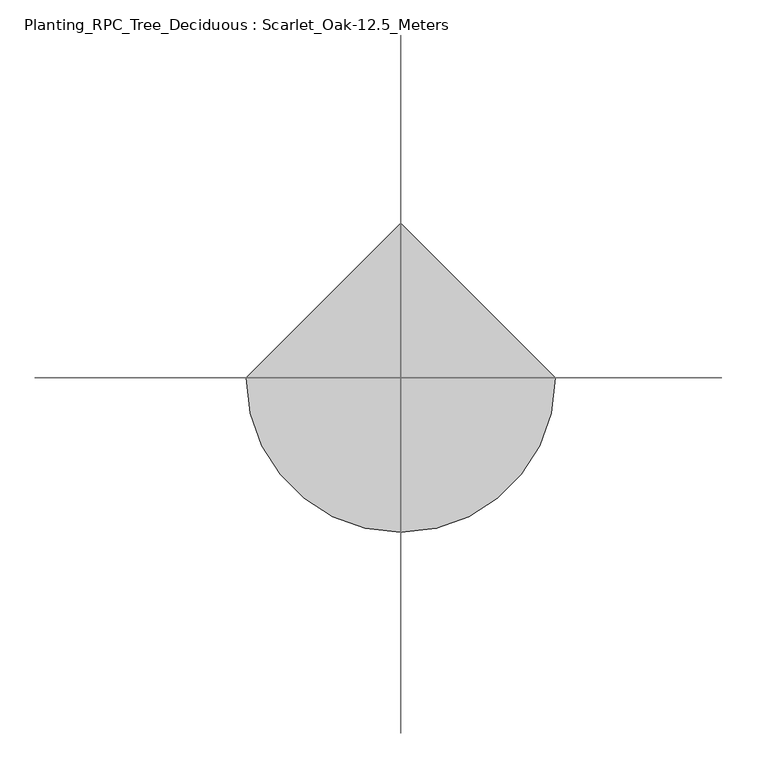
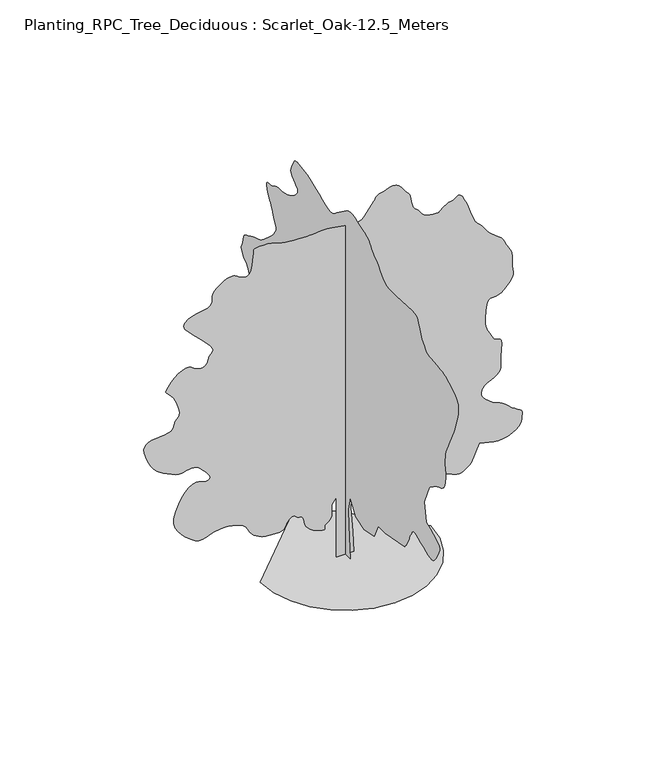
"""IFC4 building model written with IfcOpenShell, lengths in millimetres: geographic element geometry, Planting_RPC_Tree_Deciduous : Scarlet_Oak-12.5_Meters."""

from ifc_helpers import new_model, si_unit, origin, place, context, project, spatial, triangles, source, transform, mapped, element, save


def planting_rpc_tree_deciduous_scarlet_oak_12_5_meters_78a4568a(model_context):
    return source(origin(), model_context, "Body", "Tessellation", [
        triangles([(0.0172504, 306.0074844, 0.0), (0.0172504, -293.5650026, 0.0), (0.0172504, -196.8600042, 1141.1200275), (0.0172504, -177.5185068, 1682.6674953), (0.0172504, -293.5650026, 2185.5350567), (0.0172504, -603.0224945, 1682.6674953), (0.0172504, -1105.8875124, 1527.9400211), (0.0172504, -1686.1174301, 1663.3275421), (0.0172504, -1918.2099495, 2146.8525341), (0.0172504, -2324.3725124, 2146.8525341), (0.0172504, -3446.150116, 2359.6049549), (0.0172504, -3487.4249222, 2409.394939), (0.0172504, -3527.7000801, 2459.5225479), (0.0172504, -3565.9250725, 2510.3249702), (0.0172504, -3601.0999603, 2562.1500046), (0.0172504, -3632.2250954, 2615.3249565), (0.0172504, -3658.2749588, 2670.2000954), (0.0172504, -3678.2499023, 2727.0751122), (0.0172504, -3697.649881, 2785.6750237), (0.0172504, -3722.1251312, 2845.2748741), (0.0172504, -3750.8251236, 2905.7249634), (0.0172504, -3782.89991, 2966.8500114), (0.0172504, -3817.5251221, 3028.475029), (0.0172504, -3853.8249413, 3090.4500252), (0.0172504, -3890.9999977, 3152.5750122), (0.0172504, -3908.7000801, 3172.6499496), (0.0172504, -3933.1750397, 3188.8501236), (0.0172504, -3971.1750458, 3197.2499016), (0.0172504, -4029.4749756, 3193.9751015), (0.0172504, -4114.8499969, 3175.1500877), (0.0172504, -4234.0499886, 3136.8500999), (0.0172504, -4393.8501183, 3075.2250824), (0.0172504, -4562.5749939, 3002.6998581), (0.0172504, -4706.2499451, 2937.9750298), (0.0172504, -4828.2750549, 2886.4249786), (0.0172504, -4932.0251175, 2853.4999535), (0.0172504, -5020.8999252, 2844.5999153), (0.0172504, -5098.249855, 2865.125116), (0.0172504, -5167.5002792, 2920.4999336), (0.0172504, -5237.3750839, 3007.7251328), (0.0172504, -5309.5997452, 3113.9000473), (0.0172504, -5377.1002762, 3229.5499649), (0.0172504, -5432.7497864, 3345.1998825), (0.0172504, -5469.4498718, 3451.3750877), (0.0172504, -5480.1248016, 3538.6249947), (0.0172504, -5457.6250122, 3597.424894), (0.0172504, -5402.6498795, 3641.7000984), (0.0172504, -5323.3000717, 3691.0249947), (0.0172504, -5223.6747574, 3744.5999222), (0.0172504, -5107.774855, 3801.5499344), (0.0172504, -4979.7251129, 3861.0500816), (0.0172504, -4843.5499947, 3922.2251266), (0.0172504, -4703.3251236, 3984.2501198), (0.0172504, -4587.2749397, 4641.8500969), (0.0172504, -4877.3749649, 5318.7747665), (0.0172504, -4886.5249878, 5331.7001404), (0.0172504, -4900.7252838, 5347.4747589), (0.0172504, -4925.0999588, 5369.0251877), (0.0172504, -4964.6748688, 5399.20009), (0.0172504, -5024.5502838, 5440.8498734), (0.0172504, -5109.8247299, 5496.8999405), (0.0172504, -5225.5252258, 5570.225116), (0.0172504, -5351.0501221, 5636.6501312), (0.0172504, -5462.3497238, 5680.0498077), (0.0172504, -5559.4501923, 5715.3499786), (0.0172504, -5642.3497833, 5757.424736), (0.0172504, -5711.0252426, 5821.1499161), (0.0172504, -5765.4998245, 5921.4001923), (0.0172504, -5805.7502747, 6073.0752365), (0.0172504, -5829.0500153, 6222.0498642), (0.0172504, -5835.7501877, 6317.5748474), (0.0172504, -5830.6249191, 6379.6001312), (0.0172504, -5818.3750854, 6428.1000778), (0.0172504, -5803.7748138, 6483.0252136), (0.0172504, -5791.5499786, 6564.3249023), (0.0172504, -5786.4247101, 6692.0002487), (0.0172504, -5788.2251816, 6832.849791), (0.0172504, -5796.1252808, 6949.6752182), (0.0172504, -5813.8247818, 7056.3751007), (0.0172504, -5845.0502014, 7166.7747574), (0.0172504, -5893.550148, 7294.7750839), (0.0172504, -5963.0249771, 7454.2502335), (0.0172504, -6057.1750443, 7659.049942), (0.0172504, -6146.5748199, 7844.1752701), (0.0172504, -6206.1752518, 7955.8748474), (0.0172504, -6246.4751175, 8024.9502823), (0.0172504, -6277.9999374, 8082.1752777), (0.0172504, -6311.225235, 8158.3502792), (0.0172504, -6356.599791, 8284.2751511), (0.0172504, -6424.6752869, 8490.6997604), (0.0172504, -6498.0248795, 8729.4997192), (0.0172504, -6547.3747742, 8935.1499573), (0.0172504, -6565.2498459, 9112.3751862), (0.0172504, -6544.199968, 9265.925116), (0.0172504, -6476.8250107, 9400.5250397), (0.0172504, -6355.6498489, 9520.9002502), (0.0172504, -6173.2249374, 9631.8248749), (0.0172504, -5996.2252762, 9723.0001236), (0.0172504, -5879.7998245, 9785.7747803), (0.0172504, -5799.2250916, 9827.2001587), (0.0172504, -5729.8002594, 9854.4496582), (0.0172504, -5646.85009, 9874.575174), (0.0172504, -5525.6749283, 9894.699527), (0.0172504, -5341.575119, 9921.9501892), (0.0172504, -5144.0999634, 9943.4244598), (0.0172504, -4990.9500092, 9951.725116), (0.0172504, -4869.5998581, 9962.0244873), (0.0172504, -4767.5499825, 9989.5995483), (0.0172504, -4672.2499855, 10049.6505341), (0.0172504, -4571.2000488, 10157.425351), (0.0172504, -4451.8750648, 10328.0998169), (0.0172504, -4347.6750298, 10515.7499908), (0.0172504, -4286.1000092, 10666.5500885), (0.0172504, -4245.8501404, 10783.8254883), (0.0172504, -4205.5749825, 10871.0003998), (0.0172504, -4143.9999619, 10931.4501984), (0.0172504, -4039.7999268, 10968.5502594), (0.0172504, -3871.650016, 10985.7003754), (0.0172504, -2943.2749969, 10927.6748474), (0.0172504, -2772.1499771, 10930.6746643), (0.0172504, -2632.8250511, 10930.2746887), (0.0172504, -2514.4500092, 10937.3254211), (0.0172504, -2406.244986, 10962.6250397), (0.0172504, -2297.3600624, 11017.0496246), (0.0172504, -2176.9724979, 11111.3752625), (0.0172504, -2034.2550465, 11256.4745453), (0.0172504, -1896.7275398, 11403.0249023), (0.0172504, -1793.7050491, 11502.8746216), (0.0172504, -1717.0749882, 11568.5752625), (0.0172504, -1658.7125622, 11612.6248993), (0.0172504, -1610.5025688, 11647.5250946), (0.0172504, -1564.320068, 11685.7995026), (0.0172504, -1512.0500027, 11739.9996826), (0.0172504, -1461.8649845, 11804.0004272), (0.0172504, -1420.8125484, 11863.6002777), (0.0172504, -1379.087479, 11919.1503754), (0.0172504, -1326.8724976, 11970.9495392), (0.0172504, -1254.3574471, 12019.4000702), (0.0172504, -1151.7299904, 12064.7996246), (0.0172504, -1009.182514, 12107.4749268), (0.0172504, -849.1549999, 12154.4999634), (0.0172504, -699.9524792, 12206.6002716), (0.0172504, -560.5600064, 12254.6496643), (0.0172504, -429.9675053, 12289.4998627), (0.0172504, -307.1550161, 12302.0246796), (0.0172504, -191.1079934, 12283.0746735), (0.0172504, -80.8134993, 12223.5248199), (0.0172504, 499.4175176, 11798.0252106), (0.0172504, 562.2325061, 11740.8496307), (0.0172504, 623.0199657, 11688.7504852), (0.0172504, 689.217524, 11646.7751404), (0.0172504, 768.2749804, 11620.0500275), (0.0172504, 867.630035, 11613.6248383), (0.0172504, 994.7275097, 11632.5748444), (0.0172504, 1157.0125168, 11681.9753174), (0.0172504, 1341.1749676, 11755.3254913), (0.0172504, 1526.6899521, 11837.8251068), (0.0172504, 1710.1749733, 11922.0246185), (0.0172504, 1888.2475342, 12000.4500641), (0.0172504, 2057.5249924, 12065.6995697), (0.0172504, 2214.6200546, 12110.3003357), (0.0172504, 2356.1550201, 12126.8249084), (0.0172504, 2484.8875694, 12135.849939), (0.0172504, 2604.4750374, 12156.3754303), (0.0172504, 2712.9251038, 12178.575238), (0.0172504, 2808.1501053, 12192.6755402), (0.0172504, 2888.1748718, 12188.8501923), (0.0172504, 2950.9251114, 12157.2753754), (0.0172504, 2994.400074, 12088.1249451), (0.0172504, 3033.2500282, 12001.2500153), (0.0172504, 3077.8499222, 11921.1246735), (0.0172504, 3119.7499809, 11845.0502472), (0.0172504, 3150.5001389, 11770.3245758), (0.0172504, 3161.6000427, 11694.2745667), (0.0172504, 3144.6249161, 11614.1503876), (0.0172504, 3091.124984, 11527.2498779), (0.0172504, 3009.2500397, 11447.6245056), (0.0172504, 2921.5998665, 11385.2504059), (0.0172504, 2841.4251091, 11331.3502075), (0.0172504, 2781.8749649, 11277.1000305), (0.0172504, 2756.1750801, 11213.7248291), (0.0172504, 2777.4749428, 11132.4251404), (0.0172504, 2859.0249069, 11024.3747589), (0.0172504, 2971.6250107, 10916.7255157), (0.0172504, 3077.7999252, 10838.2000763), (0.0172504, 3178.2249001, 10782.3), (0.0172504, 3273.574894, 10742.6745117), (0.0172504, 3364.5248657, 10712.8251709), (0.0172504, 3451.7750633, 10686.4000397), (0.0172504, 3535.9498672, 10656.8995148), (0.0172504, 3620.024968, 10634.1753204), (0.0172504, 3706.4749237, 10626.6746155), (0.0172504, 3795.2750267, 10625.9502411), (0.0172504, 3886.4499847, 10623.5248077), (0.0172504, 3980.0000885, 10610.9499939), (0.0172504, 4075.9250473, 10579.7495728), (0.0172504, 4174.1998627, 10521.5252197), (0.0172504, 4275.775058, 10469.80047), (0.0172504, 4375.6250679, 10451.2504395), (0.0172504, 4465.0001358, 10446.8995422), (0.0172504, 4535.0999268, 10437.8245148), (0.0172504, 4577.0999794, 10405.075351), (0.0172504, 4582.2249573, 10329.6753021), (0.0172504, 4541.7001053, 10192.7255219), (0.0172504, 4481.7999825, 10048.5994354), (0.0172504, 4432.0751106, 9951.4995483), (0.0172504, 4388.424868, 9882.1247131), (0.0172504, 4346.8250816, 9821.224942), (0.0172504, 4303.1751297, 9749.5002502), (0.0172504, 4253.4249687, 9647.6750702), (0.0172504, 4193.550135, 9496.4499985), (0.0172504, 4130.2749275, 9347.6997757), (0.0172504, 4075.8250534, 9253.7502777), (0.0172504, 4034.1999779, 9195.999733), (0.0172504, 4009.500032, 9155.8498581), (0.0172504, 4005.7749687, 9114.7000443), (0.0172504, 4027.1001205, 9053.900267), (0.0172504, 4077.4999512, 8954.8999146), (0.0172504, 4167.2249977, 8823.6747849), (0.0172504, 4293.1248711, 8684.3501495), (0.0172504, 4439.3499573, 8545.349913), (0.0172504, 4589.9500671, 8415.1497208), (0.0172504, 4729.0750053, 8302.2002197), (0.0172504, 4840.7748734, 8214.9747299), (0.0172504, 4909.1747681, 8161.9000626), (0.0172504, 4969.9001312, 8128.6997635), (0.0172504, 5061.0747986, 8095.1500671), (0.0172504, 5170.5250946, 8060.9248306), (0.0172504, 5286.0750183, 8025.675238), (0.0172504, 5395.524733, 7989.0751465), (0.0172504, 5486.6999817, 7950.8001572), (0.0172504, 5547.4247635, 7910.4747116), (0.0172504, 5598.275148, 7876.9750122), (0.0172504, 5663.0252655, 7853.2997131), (0.0172504, 5734.1749924, 7830.2999542), (0.0172504, 5804.3247803, 7798.8251312), (0.0172504, 5866.0250839, 7749.7752182), (0.0172504, 5911.8001968, 7673.9751938), (0.0172504, 5934.2499893, 7562.325032), (0.0172504, 5952.6250305, 7450.1749008), (0.0172504, 5984.1998474, 7370.8500916), (0.0172504, 6018.4750809, 7312.1501862), (0.0172504, 6045.000206, 7261.899765), (0.0172504, 6053.2252853, 7207.9501511), (0.0172504, 6032.699794, 7138.074765), (0.0172504, 5972.9249542, 7040.1249298), (0.0172504, 5898.7248322, 6948.3747162), (0.0172504, 5838.7250061, 6893.5251572), (0.0172504, 5788.2001831, 6857.9500031), (0.0172504, 5742.4000717, 6824.0497467), (0.0172504, 5696.6249588, 6774.2498795), (0.0172504, 5646.1001358, 6690.9747299), (0.0172504, 5586.0997284, 6556.5997925), (0.0172504, 5520.7002319, 6421.9998688), (0.0172504, 5460.6998245, 6337.1498154), (0.0172504, 5411.5249191, 6283.075209), (0.0172504, 5378.6001846, 6240.824881), (0.0172504, 5367.3247101, 6191.4999847), (0.0172504, 5383.09991, 6116.0999359), (0.0172504, 5431.3748703, 5995.7247253), (0.0172504, 5495.5000259, 5864.0502045), (0.0172504, 5555.8748291, 5761.8250488), (0.0172504, 5613.5747955, 5680.5747757), (0.0172504, 5669.5498672, 5611.8249023), (0.0172504, 5724.8749786, 5547.1497803), (0.0172504, 5780.5250702, 5478.0749268), (0.0172504, 5837.5250793, 5396.1502762), (0.0172504, 5903.6751114, 5315.3499756), (0.0172504, 5980.6500641, 5249.4249298), (0.0172504, 6060.324852, 5189.6000931), (0.0172504, 6134.5999695, 5127.0498413), (0.0172504, 6195.3247513, 5053.0252899), (0.0172504, 6234.4002731, 4958.675235), (0.0172504, 6243.7002869, 4835.2499199), (0.0172504, 6251.5248093, 4738.3250221), (0.0172504, 6280.349794, 4706.349939), (0.0172504, 6313.2251129, 4704.825032), (0.0172504, 6333.2500534, 4699.2500816), (0.0172504, 6323.4750687, 4655.0998695), (0.0172504, 6267.0500244, 4537.8750481), (0.0172504, 6146.999794, 4313.0501083), (0.0172504, 6021.4748978, 4060.8750938), (0.0172504, 5945.6998718, 3875.3750793), (0.0172504, 5898.3248566, 3742.6250427), (0.0172504, 5858.0749878, 3648.7999557), (0.0172504, 5803.5998245, 3580.0000854), (0.0172504, 5713.6000854, 3522.3751144), (0.0172504, 5566.7747452, 3462.0500175), (0.0172504, 5397.250209, 3413.1000984), (0.0172504, 5248.0500137, 3392.5748978), (0.0172504, 5111.025238, 3390.9999939), (0.0172504, 4978.0752136, 3398.9000931), (0.0172504, 4841.0498566, 3406.7749031), (0.0172504, 4691.8499519, 3405.1999992), (0.0172504, 4522.3501236, 3384.6750893), (0.0172504, 4353.2999771, 3366.3000481), (0.0172504, 4207.2498802, 3370.2500977), (0.0172504, 4078.7998718, 3385.7000267), (0.0172504, 3962.5249924, 3401.8249146), (0.0172504, 3853.0249901, 3407.8001312), (0.0172504, 3744.8749054, 3392.799884), (0.0172504, 3632.6500694, 3346.0001244), (0.0172504, 3525.249939, 3296.2499634), (0.0172504, 3436.4251282, 3270.2000999), (0.0172504, 3368.249929, 3253.6249489), (0.0172504, 3322.75009, 3232.3250862), (0.0172504, 3301.9499062, 3192.0499283), (0.0172504, 3307.8751259, 3118.6500481), (0.0172504, 3342.5500443, 2997.8498634), (0.0172504, 3398.475119, 2869.5251381), (0.0172504, 3465.5750931, 2778.7248665), (0.0172504, 3542.0000793, 2719.2500084), (0.0172504, 3625.8499031, 2684.8000763), (0.0172504, 3715.274968, 2669.1248703), (0.0172504, 3808.4250961, 2665.9500641), (0.0172504, 3903.4251114, 2669.0498749), (0.0172504, 4270.9250633, 2262.8999565), (0.0172504, 4299.7250496, 2217.1674282), (0.0172504, 4327.3501076, 2170.5925095), (0.0172504, 4352.6250183, 2122.3249615), (0.0172504, 4374.3248566, 2071.5174522), (0.0172504, 4391.2999832, 2017.3300621), (0.0172504, 4402.3498901, 1958.9125523), (0.0172504, 4406.2999397, 1895.4200615), (0.0172504, 4405.6249809, 1829.2200325), (0.0172504, 4400.8999786, 1763.6974331), (0.0172504, 4388.0248924, 1699.5299835), (0.0172504, 4362.9999664, 1637.3900265), (0.0172504, 4321.7248695, 1577.9574623), (0.0172504, 4260.1501396, 1521.9075405), (0.0172504, 4174.1998627, 1469.9175453), (0.0172504, 4092.2249245, 1425.7650078), (0.0172504, 4034.5999535, 1391.4249527), (0.0172504, 3985.4250481, 1364.8675621), (0.0172504, 3928.800016, 1344.0599659), (0.0172504, 3848.8499542, 1326.9749622), (0.0172504, 3729.6499626, 1311.5799717), (0.0172504, 3555.3001396, 1295.8475018), (0.0172504, 3356.9750359, 1298.1024513), (0.0172504, 3174.2251442, 1332.8375404), (0.0172504, 3003.6500908, 1392.27243), (0.0172504, 2841.8750816, 1468.6199501), (0.0172504, 2685.525032, 1554.1049938), (0.0172504, 2531.1748604, 1640.9425713), (0.0172504, 2375.4949734, 1721.3500179), (0.0172504, 2236.6675461, 1794.4849434), (0.0172504, 2129.3050587, 1863.5599422), (0.0172504, 2044.6099377, 1926.8850014), (0.0172504, 1973.7875164, 1982.7650208), (0.0172504, 1908.0399307, 2029.5099873), (0.0172504, 1838.5700432, 2065.4300331), (0.0172504, 1756.5824604, 2088.8300583), (0.0172504, 1666.4174698, 2108.5650455), (0.0172504, 1577.6074837, 2133.0375343), (0.0172504, 1489.134977, 2159.8799366), (0.0172504, 1399.9875114, 2186.7200134), (0.0172504, 1309.1449459, 2211.1925022), (0.0172504, 1215.5975309, 2230.9274895), (0.0172504, 1118.3299942, 2243.5575325), (0.0172504, 1018.8625191, 2250.1549496), (0.0172504, 919.3925005, 2253.7074944), (0.0172504, 819.9250254, 2254.7225487), (0.0172504, 720.4574776, 2253.7074944), (0.0172504, 620.9900024, 2251.1700039), (0.0172504, 521.5199839, 2247.6174591), (0.0172504, 422.0525087, 2243.5575325), (0.0172504, 228.6430025, 1953.4425373), (0.0172504, 189.960498, 1508.6000679), (280.4450004, 0.0006008, 0.0092122), (-299.7850081, 0.0006008, 0.0092122), (-299.7850081, 0.0004756, 2127.5199932), (-454.5149895, 0.0004756, 1914.7700432), (-454.5149895, 0.0005007, 1682.6775238), (-450.9625174, 0.0005007, 1628.8274677), (-450.9625174, 0.0005007, 1575.1449886), (-458.0674979, 0.0005007, 1521.8024597), (-475.8274967, 0.0005257, 1468.967458), (-507.8000001, 0.0005257, 1416.8100311), (-557.5350094, 0.0005257, 1365.4949947), (-628.5824896, 0.0005257, 1315.1974834), (-684.2375227, 0.0005257, 1262.982502), (-699.6325132, 0.0005257, 1210.0900183), (-696.0799685, 0.0005257, 1162.9524885), (-694.8950117, 0.0005257, 1127.990015), (-717.3950191, 0.0005257, 1111.6375248), (-784.8900272, 0.0005257, 1120.3225325), (-918.6974848, 0.0005257, 1160.4700092), (-1071.3399845, 0.0005257, 1223.0050003), (-1185.4125275, 0.0005257, 1293.6575191), (-1267.3425556, 0.0005257, 1371.0799736), (-1323.5625252, 0.0005257, 1453.9125629), (-1360.49748, 0.0005007, 1540.8049335), (-1384.5749348, 0.0005007, 1630.4049877), (-1402.2250202, 0.0005007, 1721.3600464), (-1406.7350647, 0.0005007, 1746.1124599), (-1413.4449749, 0.0005007, 1770.19006), (-1424.5524364, 0.0005007, 1792.9174519), (-1442.2599312, 0.0005007, 1813.6099388), (-1468.7600578, 0.0005007, 1831.5975037), (-1506.2599491, 0.0005007, 1846.2025715), (-1556.9524944, 0.0005007, 1856.7475674), (-1607.6450397, 0.0005007, 1874.1124958), (-1647.5100483, 0.0005007, 1903.3224861), (-1682.3025467, 0.0004756, 1934.9000645), (-1717.7700039, 0.0004756, 1959.3725533), (-1759.6674465, 0.0004756, 1967.2675655), (-1813.7424889, 0.0004756, 1949.1099529), (-1885.7500122, 0.0005007, 1895.4274738), (-1949.0724552, 0.0005007, 1820.3199944), (-1984.9925011, 0.0005007, 1746.902528), (-2011.1000645, 0.0005007, 1679.2374722), (-2044.9875309, 0.0005007, 1621.382428), (-2104.2525181, 0.0005007, 1577.4025543), (-2206.4824699, 0.0005007, 1551.3499294), (-2369.2750042, 0.0005007, 1547.2900028), (-2549.149926, 0.0005007, 1559.2449417), (-2695.2000229, 0.0005007, 1578.979929), (-2813.8250496, 0.0005007, 1607.1750103), (-2911.4999016, 0.0005007, 1644.5025284), (-2994.6250603, 0.0005007, 1691.6425289), (-3069.600135, 0.0005007, 1749.2724415), (-3142.9250198, 0.0005007, 1818.0650448), (-3205.1000038, 0.0005007, 1893.5100037), (-3249.7248962, 0.0004756, 1969.2975288), (-3287.549913, 0.0004756, 2043.389954), (-3329.4499718, 0.0004756, 2113.7625481), (-3386.2249947, 0.0004756, 2178.3824409), (-3468.7249008, 0.0004756, 2235.2224308), (-3587.7499031, 0.0004756, 2282.2499382), (-3707.4248657, 0.0004756, 2317.9974655), (-3794.2500893, 0.0004506, 2343.2600224), (-3862.8249733, 0.0004506, 2359.3875263), (-3927.6750847, 0.0004506, 2367.7325111), (-4003.3251183, 0.0004506, 2369.6499813), (-4104.3750549, 0.0004506, 2366.4924706), (-4245.3498802, 0.0004506, 2359.6125126), (-4400.3500122, 0.0004506, 2335.1974331), (-4538.1250328, 0.0004756, 2289.8050003), (-4665.0501343, 0.0004756, 2240.3524956), (-4787.5749229, 0.0004756, 2203.7574909), (-4912.1501678, 0.0004756, 2196.9349422), (-5045.1501892, 0.0004756, 2236.7999508), (-5193.0498825, 0.0004506, 2340.2725594), (-5347.7997391, 0.0004506, 2478.6475433), (-5490.6747391, 0.0004506, 2615.9999153), (-5612.2498764, 0.0004256, 2758.4499413), (-5703.0251495, 0.0004256, 2912.049868), (-5753.5499725, 0.0004256, 3082.8999046), (-5754.3499237, 0.0004005, 3277.0999695), (-5695.9250015, 0.0004005, 3500.7249825), (-5598.1501556, 0.0003755, 3726.2748779), (-5489.1998291, 0.0003755, 3919.6999901), (-5372.1499969, 0.0003505, 4077.2499664), (-5250.0248932, 0.0003505, 4195.2000343), (-5125.8499146, 0.0003505, 4269.8501289), (-5002.6998734, 0.0003505, 4297.4998947), (-4883.6001663, 0.0003505, 4274.3751434), (-4771.2750458, 0.0003505, 4235.4749016), (-4671.8250114, 0.0003505, 4218.8750427), (-4593.3248611, 0.0003505, 4225.6499199), (-4543.9249695, 0.0003505, 4256.7750549), (-4531.7501312, 0.0003505, 4313.2750946), (-4564.9001427, 0.0003505, 4396.1749763), (-4651.5000893, 0.0003254, 4506.4749298), (-4752.500029, 0.0003254, 4617.0998634), (-4829.4749817, 0.0003254, 4702.3498924), (-4891.5502625, 0.0003254, 4765.2751213), (-4947.8747314, 0.0003254, 4808.9250732), (-5007.6001556, 0.0003254, 4836.325145), (-5079.8248169, 0.0003004, 4850.5498581), (-5173.7248993, 0.0003004, 4854.5999016), (-5270.0248352, 0.0003254, 4845.5248741), (-5349.7751999, 0.0003254, 4824.5999886), (-5422.3998367, 0.0003254, 4801.3249557), (-5497.39991, 0.0003254, 4785.1250725), (-5584.2248428, 0.0003254, 4785.5250481), (-5692.3752182, 0.0003254, 4811.9748871), (-5831.3248764, 0.0003004, 4873.9498833), (-5978.7751785, 0.0003004, 4948.0997177), (-6108.6248108, 0.0003004, 5012.4248611), (-6224.6252884, 0.0003004, 5078.4748993), (-6330.4502243, 0.0003004, 5157.6997147), (-6429.8749695, 0.0003004, 5261.5997681), (-6526.574881, 0.0002754, 5401.7249359), (-6624.2997299, 0.0002754, 5589.5750977), (-6705.1000305, 0.0002503, 5784.4998276), (-6749.7002151, 0.0002503, 5941.2001465), (-6759.8001801, 0.0002503, 6064.0752045), (-6737.074823, 0.0002253, 6157.4997345), (-6683.2252029, 0.0002253, 6225.9002106), (-6599.9500534, 0.0002253, 6273.6502029), (-6488.899855, 0.0002253, 6305.1750229), (-6357.7997177, 0.0002253, 6323.2750809), (-6219.2750336, 0.0002253, 6333.9500107), (-6082.4002487, 0.0002253, 6346.2748398), (-5956.3748016, 0.0002253, 6369.4501694), (-5850.3248795, 0.0002253, 6412.5998611), (-5773.3499268, 0.0002253, 6484.8251038), (-5734.5999664, 0.0002003, 6595.2997559), (-5705.9749695, 0.0002003, 6701.9752213), (-5661.749762, 0.0002003, 6771.4500504), (-5614.8497177, 0.0002003, 6825.7002274), (-5578.0752182, 0.0002003, 6886.6999924), (-5564.3248947, 0.0001752, 6976.4747452), (-5586.4252899, 0.0001752, 7116.9998886), (-5657.2500366, 0.0001752, 7330.2502441), (-5757.5497284, 0.0001502, 7540.3002136), (-5853.4752686, 0.0001502, 7672.5252823), (-5935.8498917, 0.0001502, 7750.975145), (-5995.5747345, 0.0001252, 7799.6250824), (-6023.4747757, 0.0001252, 7842.5247894), (-6010.4499893, 0.0001252, 7903.7251236), (-5947.3497711, 0.0001252, 8007.2002029), (-5845.6501648, 0.0001252, 8136.3248795), (-5728.0247864, 0.0001001, 8253.9502579), (-5602.2749039, 0.0001001, 8353.3000076), (-5476.1750427, 0.0001001, 8427.6251221), (-5357.5497253, 0.0001001, 8470.1248535), (-5254.1252243, 0.0001001, 8474.0751938), (-5173.7248993, 0.0001001, 8432.6998123), (-5094.9000595, 0.0001001, 8371.00009), (-4997.8001724, 0.0001001, 8322.8501221), (-4892.5751999, 0.0001001, 8294.6500992), (-4789.3751038, 0.0001001, 8292.850209), (-4698.375135, 0.0001001, 8323.8750595), (-4629.6999664, 0.0001001, 8394.1248413), (-4593.5001411, 0.0001001, 8510.0497421), (-4560.3251312, 0.0001001, 8620.5749725), (-4508.2251137, 7.51e-05, 8686.1000427), (-4458.4999512, 7.51e-05, 8730.3002518), (-4432.4500877, 7.51e-05, 8776.8747345), (-4451.4000938, 7.51e-05, 8849.4999527), (-4536.6501228, 7.51e-05, 8971.8750412), (-4709.5500343, 5.01e-05, 9167.6497192), (-4926.3498825, 5.01e-05, 9388.800174), (-5120.1502625, 2.5e-05, 9575.0998489), (-5277.4249649, 2.5e-05, 9731.9751572), (-5384.5998184, 2.5e-05, 9864.8246063), (-5428.2000641, 0.0, 9979.0746094), (-5394.6497864, 0.0, 10080.1254181), (-5270.4248108, 0.0, 10173.3755402), (-5104.7500397, 0.0, 10245.2246429), (-4956.3497955, 0.0, 10286.2744629), (-4825.8749107, 0.0, 10308.3754395), (-4714.0000534, -2.5e-05, 10323.3745239), (-4621.3998917, -2.5e-05, 10343.1000641), (-4548.7749641, -2.5e-05, 10379.4245911), (-4496.7749405, -2.5e-05, 10444.1497101), (-4470.8500694, -2.5e-05, 10520.7252686), (-4466.9000198, -2.5e-05, 10587.8246613), (-4471.4000359, -2.5e-05, 10650.1999237), (-4470.8500694, -2.5e-05, 10712.5751862), (-4451.6750771, -5.01e-05, 10779.6745789), (-4400.3500122, -5.01e-05, 10856.2501373), (-4303.3751175, -5.01e-05, 10947.0248291), (-4184.6750954, -5.01e-05, 11036.8495789), (-4076.1250351, -5.01e-05, 11106.7255463), (-3976.0500389, -7.51e-05, 11155.60047), (-3882.7249214, -7.51e-05, 11182.4999908), (-3794.4750755, -7.51e-05, 11186.3997528), (-3709.6000237, -7.51e-05, 11166.2498199), (-3626.4498665, -5.01e-05, 11121.1002502), (-3540.7248665, -5.01e-05, 11065.9001312), (-3452.3250298, -5.01e-05, 11022.8748505), (-3365.6000908, -5.01e-05, 11001.8249725), (-3284.9500717, -5.01e-05, 11012.5998962), (-3214.7999931, -5.01e-05, 11064.9746063), (-3159.5498772, -7.51e-05, 11168.7996643), (-3123.5750381, -7.51e-05, 11333.8500549), (-3102.0998955, -7.51e-05, 11511.0752838), (-3086.6999634, -0.0001001, 11648.0250641), (-3076.3750122, -0.0001001, 11749.4746857), (-3070.125103, -0.0001001, 11820.1250244), (-3066.9000092, -0.0001001, 11864.7246277), (-3065.7250809, -0.0001001, 11888.025531), (-3065.5500916, -0.0001001, 11894.7251221), (-3040.1248993, -0.0001001, 11898.674881), (-2971.0500458, -0.0001001, 11907.3755127), (-2869.1498703, -0.0001001, 11916.0505646), (-2745.2748734, -0.0001001, 11920.0003235), (-2610.2249771, -0.0001001, 11914.4750793), (-2474.8323692, -0.0001001, 11894.7251221), (-2349.935051, -0.0001001, 11856.0495758), (-2235.4100647, -0.0001001, 11813.0254578), (-2120.5474537, -0.0001001, 11781.8494537), (-2000.2725277, -0.0001001, 11760.1251984), (-1869.5075443, -0.0001001, 11745.5249268), (-1723.1824642, -0.0001001, 11735.675528), (-1556.2175102, -0.0001001, 11728.174823), (-1363.5400269, -0.0001001, 11720.6752808), (-1177.5749971, -0.0001001, 11719.599765), (-1024.4249702, -0.0001001, 11728.6747925), (-889.5449764, -0.0001001, 11741.475174), (-758.3875025, -0.0001001, 11751.5745575), (-616.4050352, -0.0001001, 11752.5244995), (-449.0450109, -0.0001001, 11737.9253906), (-241.763259, -0.0001001, 11701.3252991), (-32.2257492, -0.0001001, 11657.8000488), (136.7125037, -0.0001001, 11627.7995544), (271.8174929, -0.0001001, 11613.0248749), (379.8574825, -0.0001001, 11615.1503265), (467.5975121, -0.0001001, 11635.9246399), (541.8025031, -0.0001001, 11676.9744598), (609.2425, -0.0001001, 11739.9996826), (899.3575315, -0.0001252, 12107.4749268), (942.8899761, -0.0001252, 12164.1505371), (977.6249926, -0.0001252, 12217.4496094), (1008.9749685, -0.0001252, 12266.3245331), (1042.3575239, -0.0001252, 12309.7997864), (1083.1825029, -0.0001252, 12346.8498505), (1136.864982, -0.0001252, 12376.4503693), (1208.8150234, -0.0001252, 12397.6002411), (1297.0049892, -0.0001502, 12421.8499237), (1393.3149536, -0.0001502, 12454.2246918), (1494.0224693, -0.0001502, 12483.8752075), (1595.4100307, -0.0001502, 12499.9998047), (1693.7499584, -0.0001502, 12491.7747253), (1785.3225666, -0.0001502, 12448.349469), (1866.410059, -0.0001252, 12358.9246948), (1938.4149662, -0.0001252, 12256.9251068), (2004.3324543, -0.0001252, 12177.5752991), (2062.8075188, -0.0001252, 12112.7746033), (2112.4850098, -0.0001252, 12054.4246765), (2152.0125389, -0.0001252, 11994.3748535), (2180.0375725, -0.0001001, 11924.5000488), (2195.2049606, -0.0001001, 11836.6995941), (2205.7499565, -0.0001001, 11745.7004974), (2220.3550243, -0.0001001, 11669.9248901), (2238.3424438, -0.0001001, 11606.8252533), (2259.0349308, -7.51e-05, 11553.8749969), (2281.7599972, -7.51e-05, 11508.5254395), (2305.8374519, -7.51e-05, 11468.2755707), (2330.5924816, -7.51e-05, 11430.5499664), (2355.6274361, -7.51e-05, 11413.5754211), (2381.680061, -7.51e-05, 11394.2254395), (2409.760033, -7.51e-05, 11370.1501648), (2440.8876389, -7.51e-05, 11338.9753235), (2476.0724098, -7.51e-05, 11298.3254791), (2516.3248947, -7.51e-05, 11245.8251953), (2562.6749725, -7.51e-05, 11179.1246155), (2631.3751396, -5.01e-05, 11115.7249969), (2728.4750267, -5.01e-05, 11072.3253204), (2839.7749191, -5.01e-05, 11045.1246552), (2951.0751022, -5.01e-05, 11030.4755493), (3048.1749893, -5.01e-05, 11024.6003265), (3116.8748657, -5.01e-05, 11023.8247925), (3142.9250198, -5.01e-05, 11024.4003387), (3156.2750771, -5.01e-05, 11038.3250702), (3192.9998703, -5.01e-05, 11074.2252045), (3247.9750031, -5.01e-05, 11123.3501129), (3316.1499115, -7.51e-05, 11176.8503357), (3392.4249069, -7.51e-05, 11225.9752441), (3471.7750053, -7.51e-05, 11261.8997955), (3549.0749382, -7.51e-05, 11275.824527), (3618.3750687, -7.51e-05, 11292.800235), (3679.5501137, -7.51e-05, 11331.0746429), (3736.350135, -7.51e-05, 11371.7244873), (3792.4499084, -7.51e-05, 11395.8253418), (3851.6000771, -7.51e-05, 11384.3748779), (3917.5251228, -7.51e-05, 11318.4498322), (3993.9251106, -7.51e-05, 11179.1246155), (4065.8750793, -5.01e-05, 11015.4253052), (4119.5500008, -5.01e-05, 10883.1996552), (4160.3751251, -5.01e-05, 10773.6249481), (4193.7501228, -2.5e-05, 10677.9505554), (4225.0999535, -2.5e-05, 10587.3246918), (4259.8498672, -2.5e-05, 10493.0002167), (4303.3751175, -2.5e-05, 10386.1253448), (4348.1000038, 0.0, 10292.3496735), (4386.3749931, 0.0, 10232.749823), (4423.6500435, 0.0, 10191.7755798), (4465.325116, 0.0, 10153.8255707), (4516.799881, 0.0, 10103.3495819), (4583.4998795, 0.0, 10024.7997253), (4670.850071, 0.0, 9902.6002075), (4778.3749031, 2.5e-05, 9766.6003693), (4896.3999664, 2.5e-05, 9652.9247498), (5016.4501968, 2.5e-05, 9555.474884), (5130.075238, 5.01e-05, 9468.1999786), (5228.8000259, 5.01e-05, 9384.974826), (5304.2000748, 5.01e-05, 9299.6997986), (5347.7997391, 5.01e-05, 9206.3252655), (5382.0249756, 5.01e-05, 9114.7500412), (5429.774968, 7.51e-05, 9032.6498199), (5483.3001892, 7.51e-05, 8950.5501801), (5534.7749542, 7.51e-05, 8858.9749557), (5576.449736, 7.51e-05, 8748.4747238), (5600.5250107, 0.0001001, 8609.5250656), (5599.22509, 0.0001001, 8432.6998123), (5596.5752518, 0.0001001, 8262.7497208), (5611.174942, 0.0001252, 8138.7997284), (5627.1251312, 0.0001252, 8042.949765), (5628.5500443, 0.0001252, 7957.224765), (5599.5000732, 0.0001252, 7863.750238), (5524.1250229, 0.0001502, 7744.5249573), (5386.4752853, 0.0001502, 7581.6750137), (5223.124791, 0.0001502, 7444.9502197), (5081.4247192, 0.0001502, 7390.0750809), (4961.7000504, 0.0001502, 7378.1752258), (4864.3248894, 0.0001502, 7370.3501221), (4789.60009, 0.0001752, 7327.6498215), (4737.9000481, 0.0001752, 7211.2249512), (4709.5250359, 0.0001752, 6982.1249817), (4698.9251015, 0.0002003, 6728.5997589), (4700.5250038, 0.0002003, 6550.1751846), (4714.6000168, 0.0002253, 6424.9002731), (4741.5751144, 0.0002253, 6330.7252075), (4781.7249893, 0.0002253, 6245.7001648), (4835.3999107, 0.0002253, 6147.7997452), (4902.950148, 0.0002503, 6015.0752884), (4980.0250946, 0.0002503, 5899.6497757), (5057.7999985, 0.0002503, 5847.1500732), (5129.8002548, 0.0002503, 5825.7752151), (5189.6250916, 0.0002503, 5803.7248169), (5230.8499008, 0.0002503, 5749.200238), (5247.0250763, 0.0002754, 5630.3749329), (5231.7498459, 0.0002754, 5415.5002579), (5210.9999496, 0.0003004, 5178.6001831), (5207.8251434, 0.0003004, 5005.3247131), (5211.4499222, 0.0003004, 4881.0997375), (5210.9999496, 0.0003254, 4791.3999802), (5195.6497238, 0.0003254, 4721.6498772), (5154.5999039, 0.0003254, 4657.3000259), (5077.0249878, 0.0003254, 4583.8248596), (4983.2998947, 0.0003254, 4514.9249954), (4900.3997223, 0.0003254, 4468.3499313), (4827.3251129, 0.0003254, 4435.6498924), (4763.0499664, 0.0003505, 4408.3501053), (4706.5499268, 0.0003505, 4378.0249214), (4656.8250549, 0.0003505, 4336.1748596), (4612.8251244, 0.0003505, 4274.3751434), (4577.8749321, 0.0003505, 4202.8248596), (4558.1249748, 0.0003505, 4135.32491), (4557.0000435, 0.0003505, 4068.8498978), (4577.8749321, 0.0003755, 4000.3250107), (4624.1000175, 0.0003755, 3926.7501411), (4699.1000908, 0.0003755, 3845.024897), (4806.2499458, 0.0003755, 3752.1750412), (4919.8002823, 0.0003755, 3670.8000664), (5016.1252167, 0.0003755, 3617.5001221), (5101.6002319, 0.0004005, 3580.1250778), (5182.6999329, 0.0004005, 3546.4750969), (5265.8000931, 0.0004005, 3504.3500519), (5357.374736, 0.0004005, 3441.5751045), (5463.8252151, 0.0004005, 3346.0001244), (5576.8497116, 0.0004005, 3247.2750458), (5681.0497467, 0.0004005, 3176.6249977), (5772.3999847, 0.0004256, 3124.2249985), (5846.8250931, 0.0004256, 3080.3000633), (5900.2747375, 0.0004256, 3035.0249199), (5928.6997467, 0.0004256, 2978.5748772), (5928.0247879, 0.0004256, 2901.1499519), (5916.924884, 0.0004256, 2813.2500847), (5910.1997131, 0.0004506, 2730.7498878), (5898.0748718, 0.0004506, 2651.975045), (5870.7247971, 0.0004506, 2575.2500771), (5818.350087, 0.0004506, 2498.8349739), (5731.1251785, 0.0004506, 2421.0750401), (5599.22509, 0.0004506, 2340.2725594), (5441.7248199, 0.0004756, 2274.8624531), (5284.2501297, 0.0004756, 2240.917432), (5126.7498596, 0.0004756, 2233.1924675), (4969.2501709, 0.0004756, 2246.4425308), (4811.7748993, 0.0004756, 2275.4250641), (4654.2749199, 0.0004756, 2314.8975094), (4496.7749405, 0.0004506, 2359.6125126), (4225.9998985, 0.0005007, 1760.042569), (4159.6498787, 0.0005007, 1702.5250042), (4092.9248817, 0.0005007, 1648.0549278), (4025.5499245, 0.0005007, 1599.675032), (3957.1500298, 0.0005007, 1560.4274277), (3887.3999268, 0.0005007, 1533.3625099), (3815.9499275, 0.0005007, 1521.5225349), (3742.4750519, 0.0005007, 1527.9500496), (3682.5999275, 0.0005007, 1542.5525013), (3644.6999153, 0.0005007, 1554.7899811), (3617.6501129, 0.0005007, 1567.0274609), (3590.2500412, 0.0005007, 1581.6300579), (3551.3250916, 0.0005007, 1600.9724819), (3489.750071, 0.0005007, 1627.4175247), (3394.3500801, 0.0005007, 1663.3375706), (3270.0751076, 0.0005007, 1715.4949974), (3134.2999649, 0.0005007, 1784.5699963), (2994.450071, 0.0005007, 1863.794957), (2857.9999695, 0.0004756, 1946.40256), (2732.3500809, 0.0004756, 2025.6275208), (2624.9999474, 0.0004756, 2094.7025196), (2543.3499893, 0.0004756, 2146.8625626), (2474.2126396, 0.0004756, 2192.817461), (2400.0074306, 0.0004756, 2246.8925034), (2321.5700672, 0.0004756, 2307.7374813), (2239.7525322, 0.0004506, 2373.9924488), (2155.3950359, 0.0004506, 2444.3074883), (2069.3475266, 0.0004506, 2517.3251244), (1982.4550106, 0.0004506, 2591.6999451), (1963.1124413, 0.0004256, 2881.8249687), (1576.2924477, 0.0004256, 2920.4999336), (880.0150349, 0.0004256, 2862.474987), (415.8325032, 0.0004506, 2611.0499268), (222.4215072, 0.0004756, 2146.8625626), (183.7397477, 0.0005007, 1605.3124786), (241.7622416, 0.0005507, 715.6274672), (-2855.9000977, 0.0, 0.0224297), (-2780.4000549, -654.3849844, 0.0224297), (-2565.3750984, -1255.3350037, 0.0224297), (-2228.0500488, -1785.6274899, 0.0224297), (-1785.6274899, -2228.0500488, 0.0224297), (-1255.3350037, -2565.3750984, 0.0224297), (-654.3849844, -2780.4000549, 0.0224297), (0.0001248, -2855.9000977, 0.0224297), (654.3849844, -2780.4000549, 0.0224297), (1255.3350037, -2565.3750984, 0.0224297), (1785.6274899, -2228.0500488, 0.0224297), (2228.0500488, -1785.6274899, 0.0224297), (2565.3750984, -1255.3350037, 0.0224297), (2780.4000549, -654.3849844, 0.0224297), (2855.9000977, 0.0002503, 0.0224297), (-0.0003745, 2855.9000977, 0.0224297)], [[1, 2, 3], [368, 1, 3], [368, 3, 4], [367, 368, 4], [367, 4, 5], [277, 278, 279], [366, 367, 5], [276, 277, 279], [276, 279, 280], [7, 8, 9], [6, 7, 9], [5, 6, 9], [315, 316, 317], [201, 202, 203], [200, 201, 203], [200, 203, 204], [199, 200, 204], [199, 204, 205], [198, 199, 205], [198, 205, 206], [198, 206, 207], [197, 198, 207], [197, 207, 208], [275, 276, 280], [196, 197, 208], [195, 196, 208], [194, 195, 208], [194, 208, 209], [193, 194, 209], [192, 193, 209], [192, 209, 210], [191, 192, 210], [191, 210, 211], [191, 211, 212], [190, 191, 212], [190, 212, 213], [190, 213, 214], [189, 190, 214], [189, 214, 215], [188, 189, 215], [187, 188, 215], [186, 187, 215], [10, 11, 12], [314, 315, 317], [10, 12, 13], [10, 13, 14], [10, 14, 15], [10, 15, 16], [10, 16, 17], [10, 17, 18], [10, 18, 19], [10, 19, 20], [10, 20, 21], [10, 21, 22], [185, 186, 215], [185, 215, 216], [275, 280, 281], [10, 22, 23], [167, 168, 169], [166, 167, 169], [165, 166, 169], [165, 169, 170], [164, 165, 170], [164, 170, 171], [163, 164, 171], [163, 171, 172], [163, 172, 173], [163, 173, 174], [163, 174, 175], [163, 175, 176], [163, 176, 177], [163, 177, 178], [163, 178, 179], [163, 179, 180], [162, 163, 180], [161, 162, 180], [160, 161, 180], [159, 160, 180], [159, 180, 181], [158, 159, 181], [157, 158, 181], [156, 157, 181], [156, 181, 182], [155, 156, 182], [154, 155, 182], [154, 182, 183], [9, 10, 23], [9, 23, 24], [9, 24, 25], [45, 46, 47], [44, 45, 47], [44, 47, 48], [43, 44, 48], [43, 48, 49], [42, 43, 49], [42, 49, 50], [41, 42, 50], [40, 41, 50], [40, 50, 51], [39, 40, 51], [38, 39, 51], [37, 38, 51], [36, 37, 51], [35, 36, 51], [34, 35, 51], [33, 34, 51], [33, 51, 52], [32, 33, 52], [32, 52, 53], [31, 32, 53], [30, 31, 53], [29, 30, 53], [28, 29, 53], [28, 53, 54], [27, 28, 54], [26, 27, 54], [5, 9, 25], [5, 25, 26], [5, 26, 54], [5, 54, 55], [366, 5, 55], [365, 366, 55], [364, 365, 55], [363, 364, 55], [362, 363, 55], [361, 362, 55], [361, 55, 56], [153, 154, 183], [153, 183, 184], [313, 314, 317], [360, 361, 56], [184, 185, 216], [153, 184, 216], [152, 153, 216], [152, 216, 217], [243, 244, 245], [242, 243, 245], [242, 245, 246], [241, 242, 246], [241, 246, 247], [241, 247, 248], [240, 241, 248], [240, 248, 249], [240, 249, 250], [239, 240, 250], [239, 250, 251], [238, 239, 251], [237, 238, 251], [236, 237, 251], [235, 236, 251], [234, 235, 251], [233, 234, 251], [232, 233, 251], [231, 232, 251], [230, 231, 251], [229, 230, 251], [228, 229, 251], [228, 251, 252], [227, 228, 252], [226, 227, 252], [226, 252, 253], [226, 253, 254], [226, 254, 255], [226, 255, 256], [226, 256, 257], [225, 226, 257], [224, 225, 257], [223, 224, 257], [222, 223, 257], [222, 257, 258], [221, 222, 258], [220, 221, 258], [115, 116, 117], [114, 115, 117], [114, 117, 118], [113, 114, 118], [113, 118, 119], [112, 113, 119], [111, 112, 119], [110, 111, 119], [152, 217, 218], [313, 317, 318], [313, 318, 319], [313, 319, 320], [313, 320, 321], [313, 321, 322], [313, 322, 323], [313, 323, 324], [313, 324, 325], [313, 325, 326], [313, 326, 327], [313, 327, 328], [313, 328, 329], [313, 329, 330], [313, 330, 331], [313, 331, 332], [313, 332, 333], [313, 333, 334], [313, 334, 335], [313, 335, 336], [313, 336, 337], [313, 337, 338], [313, 338, 339], [313, 339, 340], [313, 340, 341], [312, 313, 341], [312, 341, 342], [312, 342, 343], [311, 312, 343], [311, 343, 344], [311, 344, 345], [310, 311, 345], [310, 345, 346], [310, 346, 347], [310, 347, 348], [309, 310, 348], [309, 348, 349], [309, 349, 350], [308, 309, 350], [308, 350, 351], [307, 308, 351], [307, 351, 352], [307, 352, 353], [307, 353, 354], [307, 354, 355], [307, 355, 356], [307, 356, 357], [307, 357, 358], [306, 307, 358], [306, 358, 359], [306, 359, 360], [306, 360, 56], [305, 306, 56], [305, 56, 57], [304, 305, 57], [303, 304, 57], [302, 303, 57], [301, 302, 57], [301, 57, 58], [301, 58, 59], [110, 119, 120], [109, 110, 120], [109, 120, 121], [301, 59, 60], [300, 301, 60], [300, 60, 61], [151, 152, 218], [109, 121, 122], [300, 61, 62], [145, 146, 147], [144, 145, 147], [143, 144, 147], [143, 147, 148], [142, 143, 148], [141, 142, 148], [140, 141, 148], [140, 148, 149], [139, 140, 149], [138, 139, 149], [137, 138, 149], [136, 137, 149], [135, 136, 149], [134, 135, 149], [133, 134, 149], [132, 133, 149], [132, 149, 150], [131, 132, 150], [130, 131, 150], [129, 130, 150], [128, 129, 150], [127, 128, 150], [126, 127, 150], [126, 150, 151], [126, 151, 218], [125, 126, 218], [124, 125, 218], [123, 124, 218], [123, 218, 219], [122, 123, 219], [109, 122, 219], [108, 109, 219], [108, 219, 220], [108, 220, 258], [108, 258, 259], [108, 259, 260], [108, 260, 261], [108, 261, 262], [107, 108, 262], [107, 262, 263], [107, 263, 264], [106, 107, 264], [106, 264, 265], [106, 265, 266], [106, 266, 267], [106, 267, 268], [105, 106, 268], [104, 105, 268], [103, 104, 268], [102, 103, 268], [101, 102, 268], [100, 101, 268], [99, 100, 268], [98, 99, 268], [97, 98, 268], [96, 97, 268], [95, 96, 268], [94, 95, 268], [93, 94, 268], [92, 93, 268], [91, 92, 268], [90, 91, 268], [89, 90, 268], [88, 89, 268], [87, 88, 268], [86, 87, 268], [85, 86, 268], [84, 85, 268], [83, 84, 268], [82, 83, 268], [81, 82, 268], [80, 81, 268], [79, 80, 268], [78, 79, 268], [77, 78, 268], [76, 77, 268], [75, 76, 268], [74, 75, 268], [73, 74, 268], [72, 73, 268], [71, 72, 268], [70, 71, 268], [69, 70, 268], [68, 69, 268], [67, 68, 268], [66, 67, 268], [65, 66, 268], [64, 65, 268], [63, 64, 268], [62, 63, 268], [300, 62, 268], [299, 300, 268], [298, 299, 268], [297, 298, 268], [296, 297, 268], [295, 296, 268], [294, 295, 268], [293, 294, 268], [292, 293, 268], [291, 292, 268], [290, 291, 268], [289, 290, 268], [288, 289, 268], [287, 288, 268], [286, 287, 268], [285, 286, 268], [284, 285, 268], [283, 284, 268], [282, 283, 268], [281, 282, 268], [275, 281, 268], [275, 268, 269], [274, 275, 269], [274, 269, 270], [274, 270, 271], [273, 274, 271], [272, 273, 271], [802, 369, 370], [802, 370, 371], [801, 802, 371], [800, 801, 371], [575, 576, 577], [799, 800, 371], [574, 575, 577], [383, 384, 385], [383, 385, 386], [382, 383, 386], [382, 386, 387], [381, 382, 387], [381, 387, 388], [794, 795, 796], [510, 511, 512], [574, 577, 578], [573, 574, 578], [572, 573, 578], [572, 578, 579], [571, 572, 579], [571, 579, 580], [570, 571, 580], [570, 580, 581], [570, 581, 582], [569, 570, 582], [569, 582, 583], [569, 583, 584], [568, 569, 584], [568, 584, 585], [509, 510, 512], [509, 512, 513], [508, 509, 513], [508, 513, 514], [508, 514, 515], [507, 508, 515], [507, 515, 516], [507, 516, 517], [507, 517, 518], [507, 518, 519], [507, 519, 520], [507, 520, 521], [507, 521, 522], [506, 507, 522], [506, 522, 523], [505, 506, 523], [505, 523, 524], [504, 505, 524], [568, 585, 586], [504, 524, 525], [538, 539, 540], [538, 540, 541], [537, 538, 541], [537, 541, 542], [536, 537, 542], [536, 542, 543], [536, 543, 544], [535, 536, 544], [535, 544, 545], [535, 545, 546], [534, 535, 546], [534, 546, 547], [533, 534, 547], [533, 547, 548], [381, 388, 389], [380, 381, 389], [380, 389, 390], [380, 390, 391], [380, 391, 392], [380, 392, 393], [379, 380, 393], [378, 379, 393], [377, 378, 393], [376, 377, 393], [375, 376, 393], [374, 375, 393], [373, 374, 393], [372, 373, 393], [372, 393, 394], [372, 394, 395], [372, 395, 396], [372, 396, 397], [372, 397, 398], [371, 372, 398], [371, 398, 399], [532, 533, 548], [371, 399, 400], [567, 568, 586], [567, 586, 587], [657, 658, 659], [657, 659, 660], [656, 657, 660], [656, 660, 661], [655, 656, 661], [655, 661, 662], [654, 655, 662], [654, 662, 663], [653, 654, 663], [652, 653, 663], [651, 652, 663], [650, 651, 663], [649, 650, 663], [649, 663, 664], [648, 649, 664], [647, 648, 664], [647, 664, 665], [647, 665, 666], [647, 666, 667], [647, 667, 668], [647, 668, 669], [793, 794, 796], [713, 714, 715], [713, 715, 716], [712, 713, 716], [712, 716, 717], [711, 712, 717], [646, 647, 669], [711, 717, 718], [567, 587, 588], [645, 646, 669], [645, 669, 670], [750, 751, 752], [749, 750, 752], [748, 749, 752], [748, 752, 753], [747, 748, 753], [747, 753, 754], [747, 754, 755], [747, 755, 756], [747, 756, 757], [747, 757, 758], [747, 758, 759], [747, 759, 760], [746, 747, 760], [746, 760, 761], [746, 761, 762], [745, 746, 762], [745, 762, 763], [745, 763, 764], [744, 745, 764], [743, 744, 764], [743, 764, 765], [742, 743, 765], [741, 742, 765], [741, 765, 766], [740, 741, 766], [739, 740, 766], [738, 739, 766], [737, 738, 766], [736, 737, 766], [735, 736, 766], [644, 645, 670], [567, 588, 589], [792, 793, 796], [371, 400, 401], [371, 401, 402], [371, 402, 403], [371, 403, 404], [371, 404, 405], [799, 371, 405], [799, 405, 406], [766, 767, 768], [488, 489, 490], [488, 490, 491], [487, 488, 491], [487, 491, 492], [486, 487, 492], [486, 492, 493], [485, 486, 493], [485, 493, 494], [485, 494, 495], [484, 485, 495], [483, 484, 495], [483, 495, 496], [482, 483, 496], [481, 482, 496], [480, 481, 496], [479, 480, 496], [479, 496, 497], [478, 479, 497], [477, 478, 497], [476, 477, 497], [475, 476, 497], [474, 475, 497], [473, 474, 497], [472, 473, 497], [471, 472, 497], [471, 497, 498], [470, 471, 498], [469, 470, 498], [469, 498, 499], [468, 469, 499], [468, 499, 500], [468, 500, 501], [468, 501, 502], [468, 502, 503], [467, 468, 503], [466, 467, 503], [466, 503, 504], [466, 504, 525], [465, 466, 525], [465, 525, 526], [464, 465, 526], [463, 464, 526], [735, 766, 768], [735, 768, 769], [735, 769, 770], [735, 770, 771], [735, 771, 772], [735, 772, 773], [735, 773, 774], [735, 774, 775], [735, 775, 776], [735, 776, 777], [735, 777, 778], [735, 778, 779], [735, 779, 780], [735, 780, 781], [735, 781, 782], [735, 782, 783], [735, 783, 784], [735, 784, 785], [735, 785, 786], [735, 786, 787], [735, 787, 788], [735, 788, 789], [735, 789, 790], [735, 790, 791], [735, 791, 792], [735, 792, 796], [734, 735, 796], [733, 734, 796], [732, 733, 796], [731, 732, 796], [731, 796, 797], [730, 731, 797], [567, 589, 590], [455, 456, 457], [454, 455, 457], [453, 454, 457], [453, 457, 458], [452, 453, 458], [451, 452, 458], [451, 458, 459], [450, 451, 459], [449, 450, 459], [448, 449, 459], [447, 448, 459], [446, 447, 459], [445, 446, 459], [444, 445, 459], [443, 444, 459], [442, 443, 459], [441, 442, 459], [440, 441, 459], [439, 440, 459], [438, 439, 459], [437, 438, 459], [437, 459, 460], [436, 437, 460], [435, 436, 460], [434, 435, 460], [434, 460, 461], [433, 434, 461], [432, 433, 461], [431, 432, 461], [430, 431, 461], [429, 430, 461], [428, 429, 461], [428, 461, 462], [427, 428, 462], [411, 412, 413], [411, 413, 414], [410, 411, 414], [410, 414, 415], [409, 410, 415], [409, 415, 416], [409, 416, 417], [408, 409, 417], [408, 417, 418], [408, 418, 419], [408, 419, 420], [408, 420, 421], [408, 421, 422], [408, 422, 423], [408, 423, 424], [408, 424, 425], [408, 425, 426], [407, 408, 426], [407, 426, 427], [407, 427, 462], [406, 407, 462], [799, 406, 462], [799, 462, 463], [799, 463, 526], [798, 799, 526], [798, 526, 527], [798, 527, 528], [798, 528, 529], [798, 529, 530], [798, 530, 531], [797, 798, 531], [730, 797, 531], [729, 730, 531], [728, 729, 531], [728, 531, 532], [728, 532, 548], [728, 548, 549], [728, 549, 550], [727, 728, 550], [726, 727, 550], [725, 726, 550], [724, 725, 550], [723, 724, 550], [722, 723, 550], [721, 722, 550], [720, 721, 550], [719, 720, 550], [718, 719, 550], [711, 718, 550], [710, 711, 550], [709, 710, 550], [708, 709, 550], [707, 708, 550], [706, 707, 550], [705, 706, 550], [704, 705, 550], [703, 704, 550], [702, 703, 550], [701, 702, 550], [701, 550, 551], [701, 551, 552], [701, 552, 553], [701, 553, 554], [701, 554, 555], [701, 555, 556], [701, 556, 557], [701, 557, 558], [701, 558, 559], [700, 701, 559], [699, 700, 559], [698, 699, 559], [697, 698, 559], [696, 697, 559], [617, 618, 619], [616, 617, 619], [615, 616, 619], [615, 619, 620], [614, 615, 620], [613, 614, 620], [613, 620, 621], [612, 613, 621], [612, 621, 622], [611, 612, 622], [610, 611, 622], [609, 610, 622], [608, 609, 622], [607, 608, 622], [606, 607, 622], [605, 606, 622], [604, 605, 622], [604, 622, 623], [604, 623, 624], [604, 624, 625], [604, 625, 626], [604, 626, 627], [604, 627, 628], [604, 628, 629], [604, 629, 630], [604, 630, 631], [604, 631, 632], [603, 604, 632], [603, 632, 633], [602, 603, 633], [602, 633, 634], [602, 634, 635], [602, 635, 636], [602, 636, 637], [602, 637, 638], [602, 638, 639], [602, 639, 640], [602, 640, 641], [601, 602, 641], [643, 644, 670], [643, 670, 671], [567, 590, 591], [566, 567, 591], [692, 693, 694], [692, 694, 695], [691, 692, 695], [691, 695, 696], [690, 691, 696], [680, 681, 682], [689, 690, 696], [679, 680, 682], [679, 682, 683], [678, 679, 683], [559, 560, 561], [559, 561, 562], [559, 562, 563], [566, 591, 592], [642, 643, 671], [642, 671, 672], [642, 672, 673], [642, 673, 674], [642, 674, 675], [642, 675, 676], [600, 601, 641], [688, 689, 696], [687, 688, 696], [686, 687, 696], [685, 686, 696], [684, 685, 696], [683, 684, 696], [678, 683, 696], [677, 678, 696], [676, 677, 696], [642, 676, 696], [641, 642, 696], [600, 641, 696], [599, 600, 696], [598, 599, 696], [597, 598, 696], [596, 597, 696], [595, 596, 696], [594, 595, 696], [593, 594, 696], [592, 593, 696], [566, 592, 696], [565, 566, 696], [564, 565, 696], [564, 696, 559], [564, 559, 563], [817, 818, 803], [816, 817, 803], [816, 803, 804], [815, 816, 804], [815, 804, 805], [815, 805, 806], [814, 815, 806], [813, 814, 806], [813, 806, 807], [813, 807, 808], [813, 808, 809], [813, 809, 810], [813, 810, 811], [813, 811, 812]], closed=False),
    ])


if __name__ == "__main__":
    model = new_model("IFC4")
    model_context = context("Model", 3, world=origin())
    ifc_project = project(units=[si_unit("LENGTHUNIT", "METRE", prefix="MILLI")], contexts=[model_context])
    site = spatial("IfcSite", under=ifc_project)
    building = spatial("IfcBuilding", under=site)
    placement = place(None, origin())
    planting_rpc_tree_deciduous_scarlet_oak_12_5_meters_shape = planting_rpc_tree_deciduous_scarlet_oak_12_5_meters_78a4568a(model_context)
    element("IfcGeographicElement", 1, ObjectType="Planting_RPC_Tree_Deciduous : Scarlet_Oak-12.5_Meters", at=placement, inside=building, context=model_context, shape_type="MappedRepresentation", body=[
        mapped(planting_rpc_tree_deciduous_scarlet_oak_12_5_meters_shape, transform((0.0, 0.0, 0.0), x_axis=(1.0, 0.0, 0.0), y_axis=(0.0, 1.0, 0.0), z_axis=(0.0, 0.0, 1.0))),
    ])
    save(model, "model.ifc")
